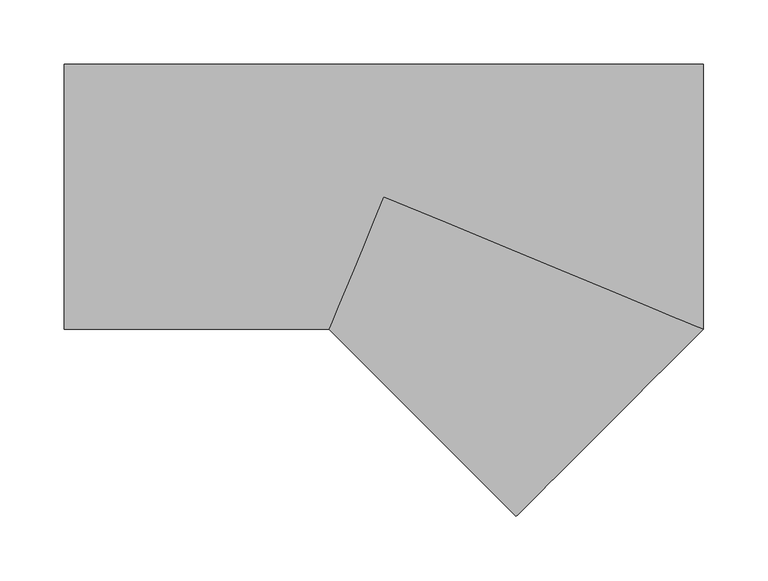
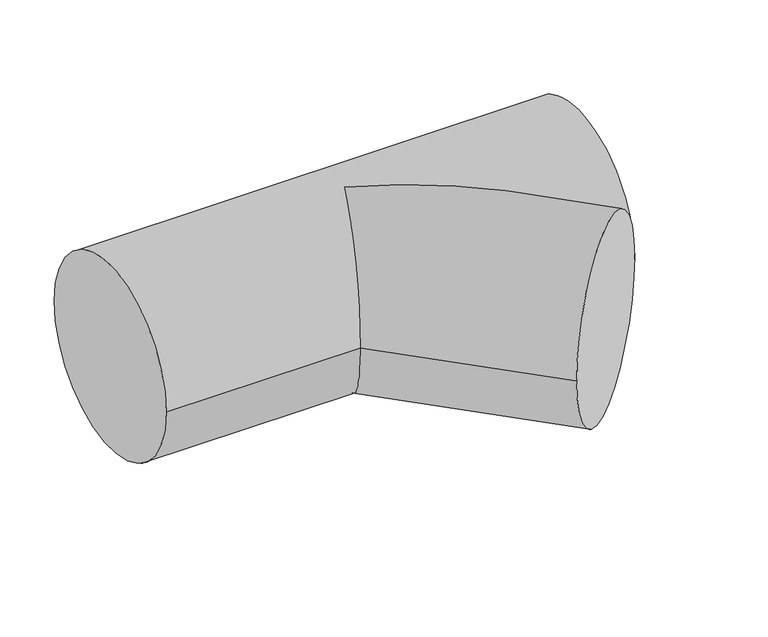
"""IFC4 building model written with IfcOpenShell, lengths in millimetres: pipe fitting geometry, M_Te - Genérica : Estándar."""

from ifc_helpers import new_model, si_unit, frame, origin, place, context, project, spatial, circle_curve, ellipse_curve, source, transform, mapped, element, save
from ifc_brep_helpers import plane_surface, cylinder_surface, advanced_brep


def pipe_fitting_ae0a18f3(model_context):
    return source(origin(), model_context, "Body", "AdvancedBrep", [
        advanced_brep(
        [(-249.1224468, -103.1875, 0.0), (-249.1224468, 103.1875, 0.0), (249.1224468, -103.1875, 0.0), (249.1224468, 103.1875, 0.0), (-42.7406695, -103.1875, 0.0), (0.0, 0.0, 103.1875), (0.0, 0.0, -103.1875), (103.1956809, -249.119058, 0.0)],
        [
            (0, 1, circle_curve(frame((-249.1224468, 0.0, 0.0), z_axis=(-1.0, 0.0, 0.0), x_axis=(0.0, 1.0, 0.0)), 103.1875)),
            (1, 0, circle_curve(frame((-249.1224468, 0.0, 0.0), z_axis=(-1.0, 0.0, 0.0), x_axis=(0.0, 1.0, 0.0)), 103.1875)),
            (2, 3, circle_curve(frame((249.1224468, 0.0, 0.0), z_axis=(1.0, 0.0, 0.0), x_axis=(0.0, 1.0, 0.0)), 103.1875)),
            (3, 2, circle_curve(frame((249.1224468, 0.0, 0.0), z_axis=(1.0, 0.0, 0.0), x_axis=(0.0, 1.0, 0.0)), 103.1875)),
            (0, 4),
            (4, 5, ellipse_curve(frame((0.0, 0.0, 0.0), z_axis=(-0.9238826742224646, 0.3826758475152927, 0.0), x_axis=(-0.3826758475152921, -0.9238826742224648, 0.0)), 111.6889654, 103.1875)),
            (5, 2, ellipse_curve(frame((0.0, 0.0, 0.0), z_axis=(0.38267584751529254, 0.9238826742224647, 0.0), x_axis=(-0.9238826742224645, 0.38267584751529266, 0.0)), 269.6472763, 103.1875)),
            (3, 1),
            (2, 6, ellipse_curve(frame((0.0, 0.0, 0.0), z_axis=(0.38267584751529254, 0.9238826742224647, 0.0), x_axis=(-0.9238826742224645, 0.38267584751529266, 0.0)), 269.6472763, 103.1875)),
            (6, 4, ellipse_curve(frame((0.0, 0.0, 0.0), z_axis=(-0.9238826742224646, 0.3826758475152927, 0.0), x_axis=(-0.3826758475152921, -0.9238826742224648, 0.0)), 111.6889654, 103.1875)),
            (7, 2, circle_curve(frame((176.1590638, -176.153279, 0.0), z_axis=(0.7071183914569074, -0.7070951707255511, 0.0), x_axis=(0.7070951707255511, 0.7071183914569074, 0.0)), 103.1875)),
            (2, 7, circle_curve(frame((176.1590638, -176.153279, 0.0), z_axis=(0.7071183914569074, -0.7070951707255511, 0.0), x_axis=(0.7070951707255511, 0.7071183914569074, 0.0)), 103.1875)),
            (4, 7),
        ],
        [
            plane_surface(frame((-249.1224468, 0.0, 0.0), z_axis=(-1.0, 0.0, 0.0), x_axis=(0.0, 0.0, 1.0))),
            plane_surface(frame((249.1224468, 0.0, 0.0), z_axis=(1.0, 0.0, 0.0), x_axis=(0.0, 0.0, 1.0))),
            cylinder_surface(frame((-249.1224468, 0.0, 0.0), z_axis=(-1.0, 0.0, 0.0), x_axis=(0.0, 1.0, 0.0)), 103.1875),
            plane_surface(frame((176.1590638, -176.153279, 0.0), z_axis=(0.7071183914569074, -0.7070951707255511, 0.0), x_axis=(0.0, 0.0, 1.0))),
            cylinder_surface(frame((0.0, 0.0, 0.0), z_axis=(-0.7071183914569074, 0.7070951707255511, 0.0), x_axis=(0.7070951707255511, 0.7071183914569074, 0.0)), 103.1875),
        ],
        [
            (0, [[1, 2]]),
            (1, [[3, 4]]),
            (2, [[-1, 5, 6, 7, -4, 8]]),
            (2, [[-2, -8, -3, 9, 10, -5]]),
            (3, [[11, 12]]),
            (4, [[-12, -7, -6, 13]]),
            (4, [[-11, -13, -10, -9]]),
        ],
    ),
    ])


if __name__ == "__main__":
    model = new_model("IFC4")
    model_context = context("Model", 3, world=origin())
    ifc_project = project(units=[si_unit("LENGTHUNIT", "METRE", prefix="MILLI")], contexts=[model_context])
    site = spatial("IfcSite", under=ifc_project)
    building = spatial("IfcBuilding", under=site)
    placement = place(None, origin())
    pipe_fitting_shape = pipe_fitting_ae0a18f3(model_context)
    element("IfcPipeFitting", 1, ObjectType="M_Te - Genérica : Estándar", at=placement, inside=building, context=model_context, shape_type="MappedRepresentation", body=[
        mapped(pipe_fitting_shape, transform((0.0, 0.0, 0.0), x_axis=(1.0, 0.0, 0.0), y_axis=(0.0, 1.0, 0.0), z_axis=(0.0, 0.0, 1.0))),
    ])
    save(model, "model.ifc")
